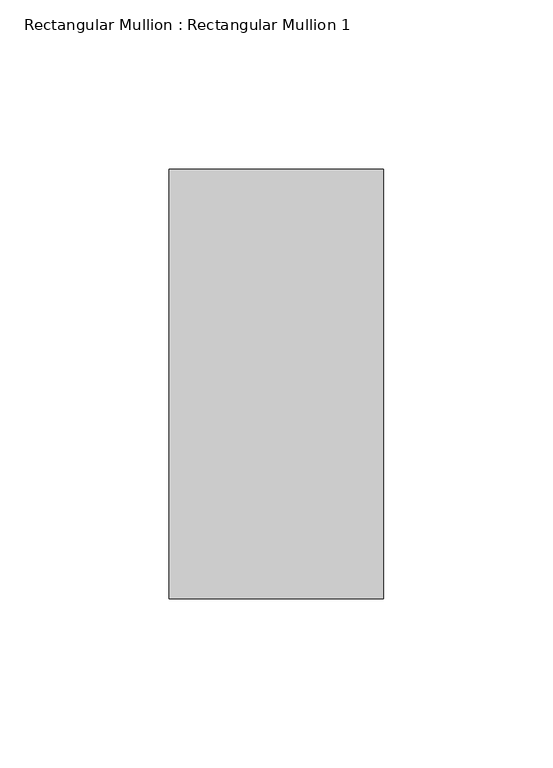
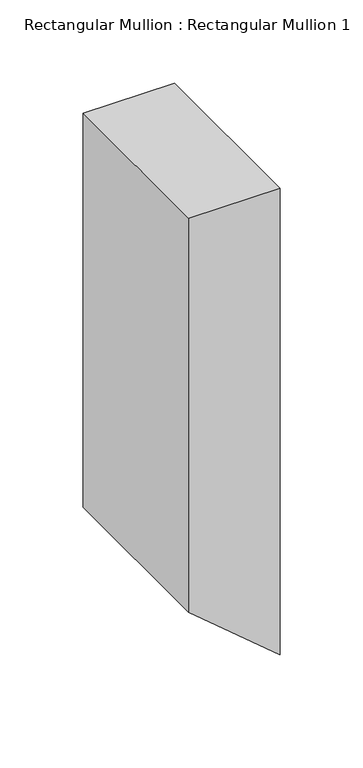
"""IFC4 building model written with IfcOpenShell, lengths in millimetres: member geometry, Rectangular Mullion : Rectangular Mullion 1."""

from ifc_helpers import new_model, si_unit, frame, origin, place, context, project, spatial, polyline, outline, extrude, source, transform, mapped, element, save


def rectangular_mullion_rectangular_mullion_1_9a090e39(model_context):
    return source(origin(), model_context, "Body", "SweptSolid", [
        extrude(outline(polyline([(0.0, 0.0), (0.0, -63.5), (-289.3381296, -63.5), (-342.6209562, 0.0), (0.0, 0.0)])), frame((0.0, -63.5, 0.0), z_axis=(0.0, 1.0, 0.0), x_axis=(0.0, 0.0, 1.0)), (0.0, 0.0, 1.0), 127.0),
    ])


if __name__ == "__main__":
    model = new_model("IFC4")
    model_context = context("Model", 3, world=origin())
    ifc_project = project(units=[si_unit("LENGTHUNIT", "METRE", prefix="MILLI")], contexts=[model_context])
    site = spatial("IfcSite", under=ifc_project)
    building = spatial("IfcBuilding", under=site)
    placement = place(None, origin())
    rectangular_mullion_rectangular_mullion_1_shape = rectangular_mullion_rectangular_mullion_1_9a090e39(model_context)
    element("IfcMember", 1, ObjectType="Rectangular Mullion : Rectangular Mullion 1", at=placement, inside=building, context=model_context, shape_type="MappedRepresentation", body=[
        mapped(rectangular_mullion_rectangular_mullion_1_shape, transform((0.0, 0.0, 0.0), x_axis=(1.0, 0.0, 0.0), y_axis=(0.0, 1.0, 0.0), z_axis=(0.0, 0.0, 1.0))),
    ])
    save(model, "model.ifc")
